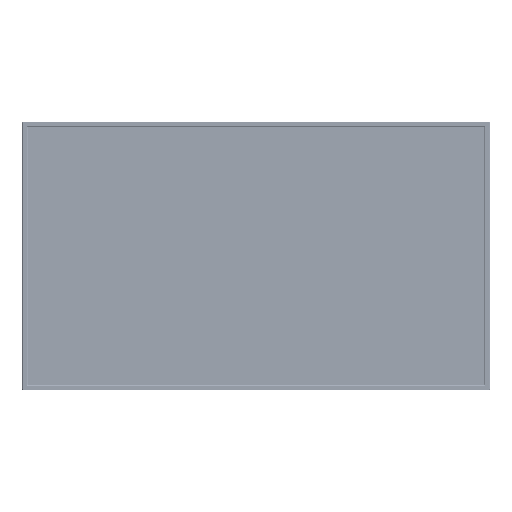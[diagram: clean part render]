
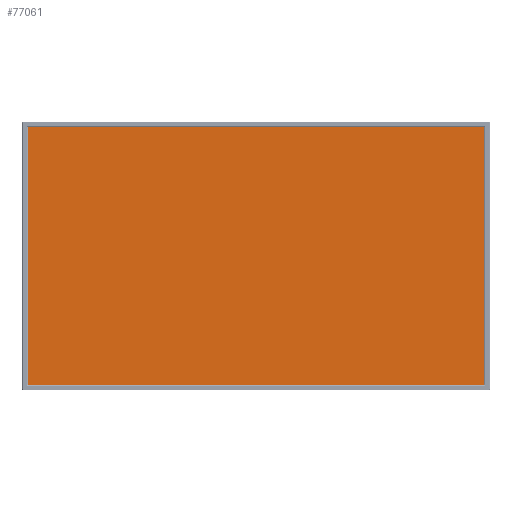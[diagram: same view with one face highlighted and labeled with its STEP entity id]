
A CAD part, top view. The second image highlights one B-rep face of the part: STEP entity #77061.
In plain terms, the highlighted planar face has unit normal (0, 0, 1).
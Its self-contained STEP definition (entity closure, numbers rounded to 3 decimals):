
#28249=CARTESIAN_POINT('',(548.424,-309.705,1.015));
#28250=CARTESIAN_POINT('',(548.685,-309.705,1.015));
#28251=CARTESIAN_POINT('',(549.204,-309.489,1.015));
#28252=CARTESIAN_POINT('',(549.42,-308.97,1.015));
#28253=CARTESIAN_POINT('',(549.42,-308.709,1.015));
#28255=DIRECTION('',(1.,0.,0.));
#28256=VECTOR('',#28255,1096.848);
#28257=CARTESIAN_POINT('',(-548.424,-309.705,1.015));
#28258=LINE('',#28257,#28256);
#28271=CARTESIAN_POINT('',(-549.42,-308.709,1.015));
#28272=CARTESIAN_POINT('',(-549.42,-308.97,1.015));
#28273=CARTESIAN_POINT('',(-549.204,-309.489,1.015));
#28274=CARTESIAN_POINT('',(-548.685,-309.705,1.015));
#28275=CARTESIAN_POINT('',(-548.424,-309.705,1.015));
#28305=CARTESIAN_POINT('',(-548.424,310.205,1.015));
#28306=CARTESIAN_POINT('',(-548.685,310.205,1.015));
#28307=CARTESIAN_POINT('',(-549.204,309.989,1.015));
#28308=CARTESIAN_POINT('',(-549.42,309.47,1.015));
#28309=CARTESIAN_POINT('',(-549.42,309.209,1.015));
#28311=DIRECTION('',(0.,-1.,0.));
#28312=VECTOR('',#28311,617.918);
#28313=CARTESIAN_POINT('',(-549.42,309.209,1.015));
#28314=LINE('',#28313,#28312);
#28327=DIRECTION('',(-1.,0.,0.));
#28328=VECTOR('',#28327,1096.848);
#28329=CARTESIAN_POINT('',(548.424,310.205,1.015));
#28330=LINE('',#28329,#28328);
#28357=CARTESIAN_POINT('',(549.42,309.209,1.015));
#28358=CARTESIAN_POINT('',(549.42,309.47,1.015));
#28359=CARTESIAN_POINT('',(549.204,309.989,1.015));
#28360=CARTESIAN_POINT('',(548.685,310.205,1.015));
#28361=CARTESIAN_POINT('',(548.424,310.205,1.015));
#28363=DIRECTION('',(0.,1.,0.));
#28364=VECTOR('',#28363,617.918);
#28365=CARTESIAN_POINT('',(549.42,-308.709,1.015));
#28366=LINE('',#28365,#28364);
#36858=CARTESIAN_POINT('',(-548.424,-309.705,1.015));
#36859=CARTESIAN_POINT('',(548.424,-309.705,1.015));
#36860=VERTEX_POINT('',#36858);
#36861=VERTEX_POINT('',#36859);
#36862=CARTESIAN_POINT('',(548.424,310.205,1.015));
#36863=CARTESIAN_POINT('',(-548.424,310.205,1.015));
#36864=VERTEX_POINT('',#36862);
#36865=VERTEX_POINT('',#36863);
#36866=CARTESIAN_POINT('',(549.42,-308.709,1.015));
#36867=CARTESIAN_POINT('',(549.42,309.209,1.015));
#36868=VERTEX_POINT('',#36866);
#36869=VERTEX_POINT('',#36867);
#36870=CARTESIAN_POINT('',(-549.42,309.209,1.015));
#36871=CARTESIAN_POINT('',(-549.42,-308.709,1.015));
#36872=VERTEX_POINT('',#36870);
#36873=VERTEX_POINT('',#36871);
#77039=CARTESIAN_POINT('',(-577.4,0.,1.015));
#77040=DIRECTION('',(0.,0.,-1.));
#77041=DIRECTION('',(1.,0.,0.));
#77042=AXIS2_PLACEMENT_3D('',#77039,#77040,#77041);
#77043=PLANE('',#77042);
#77045=ORIENTED_EDGE('',*,*,#77044,.F.);
#77047=ORIENTED_EDGE('',*,*,#77046,.F.);
#77049=ORIENTED_EDGE('',*,*,#77048,.F.);
#77051=ORIENTED_EDGE('',*,*,#77050,.F.);
#77053=ORIENTED_EDGE('',*,*,#77052,.F.);
#77055=ORIENTED_EDGE('',*,*,#77054,.F.);
#77057=ORIENTED_EDGE('',*,*,#77056,.F.);
#77058=ORIENTED_EDGE('',*,*,#77029,.F.);
#77059=EDGE_LOOP('',(#77045,#77047,#77049,#77051,#77053,#77055,#77057,#77058));
#77060=FACE_OUTER_BOUND('',#77059,.F.);
#77061=ADVANCED_FACE('',(#77060),#77043,.F.);
#28254=B_SPLINE_CURVE_WITH_KNOTS('',3,(#28249,#28250,#28251,#28252,#28253),
.UNSPECIFIED.,.F.,.F.,(4,1,4),(0.,0.5,1.),.UNSPECIFIED.);
#28276=B_SPLINE_CURVE_WITH_KNOTS('',3,(#28271,#28272,#28273,#28274,#28275),
.UNSPECIFIED.,.F.,.F.,(4,1,4),(0.,0.5,1.),.UNSPECIFIED.);
#28310=B_SPLINE_CURVE_WITH_KNOTS('',3,(#28305,#28306,#28307,#28308,#28309),
.UNSPECIFIED.,.F.,.F.,(4,1,4),(0.,0.5,1.),.UNSPECIFIED.);
#28362=B_SPLINE_CURVE_WITH_KNOTS('',3,(#28357,#28358,#28359,#28360,#28361),
.UNSPECIFIED.,.F.,.F.,(4,1,4),(0.,0.5,1.),.UNSPECIFIED.);
#77029=EDGE_CURVE('',#36861,#36868,#28254,.T.);
#77044=EDGE_CURVE('',#36860,#36861,#28258,.T.);
#77046=EDGE_CURVE('',#36873,#36860,#28276,.T.);
#77048=EDGE_CURVE('',#36872,#36873,#28314,.T.);
#77050=EDGE_CURVE('',#36865,#36872,#28310,.T.);
#77052=EDGE_CURVE('',#36864,#36865,#28330,.T.);
#77054=EDGE_CURVE('',#36869,#36864,#28362,.T.);
#77056=EDGE_CURVE('',#36868,#36869,#28366,.T.);
